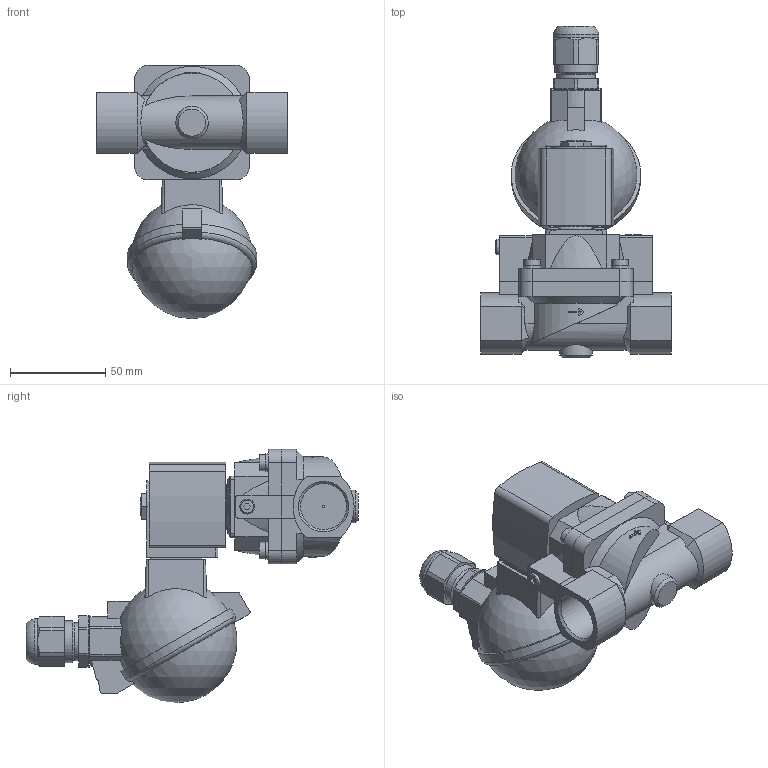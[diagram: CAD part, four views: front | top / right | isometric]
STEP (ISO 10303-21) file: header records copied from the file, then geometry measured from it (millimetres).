
FILE_DESCRIPTION(/* description */ ('STEP AP214'),/* implementation_level */ '2;1');
FILE_NAME(/* name */ '5404-349297-Servo-assisted_2_2_way_piston_valve',/* time_stamp */ '2024-02-29T13:14:47+01:00',/* author */ ('License CC BY-ND 4.0'),/* organization */ ('CADENAS'),/* preprocessor_version */ 'ST-DEVELOPER v19.3',/* originating_system */ 'PARTsolutions',/* authorisation */ ' ');
FILE_SCHEMA (('AUTOMOTIVE_DESIGN {1 0 10303 214 3 1 1}'));
Length unit declared in the file: millimetre
Products named in the file (4): 5404-349297-Servo-assisted 2/2 way piston valve; 5282g-8520MS000-2/2-Wege-Magnetventil_Gehaeuse; 5282d-20MSAU3J-2/2-Wege-Magnetventil_Deckel; AC10ex-6ATEXKLK_MB05Plan-Coil
Assembly tree (3 placements, depth 2):
  5404-349297-Servo-assisted 2/2 way piston valve
    5282g-8520MS000-2/2-Wege-Magnetventil_Gehaeuse
    5282d-20MSAU3J-2/2-Wege-Magnetventil_Deckel
    AC10ex-6ATEXKLK_MB05Plan-Coil
Bounding box: 100 x 173.9 x 132.7 mm (x, y, z)
Volume: 426619.2 mm3; surface area: 70164.3 mm2
Topology: 3 solids, 3 shells, 361 faces, 924 edges, 607 vertices
Faces by surface type: plane 200, cylinder 111, cone 38, torus 8, sphere 4
Full cylindrical faces by diameter (mm): 1 x1, 3.242 x1, 4 x4, 7.5 x4, 7.6 x4, 7.8 x1, 8.5 x4, 9.2 x4, 9.74 x1, 14 x1, 17 x1, 17.294 x1, 20 x1, 21 x1, 22 x1, 23 x1, 24 x1, 24.117 x2, 27 x1
Entity records: 11870 total; most frequent: CARTESIAN_POINT 2173, DIRECTION 1820, ORIENTED_EDGE 1712, EDGE_CURVE 856, AXIS2_PLACEMENT_3D 682, VERTEX_POINT 590, LINE 456, VECTOR 456
